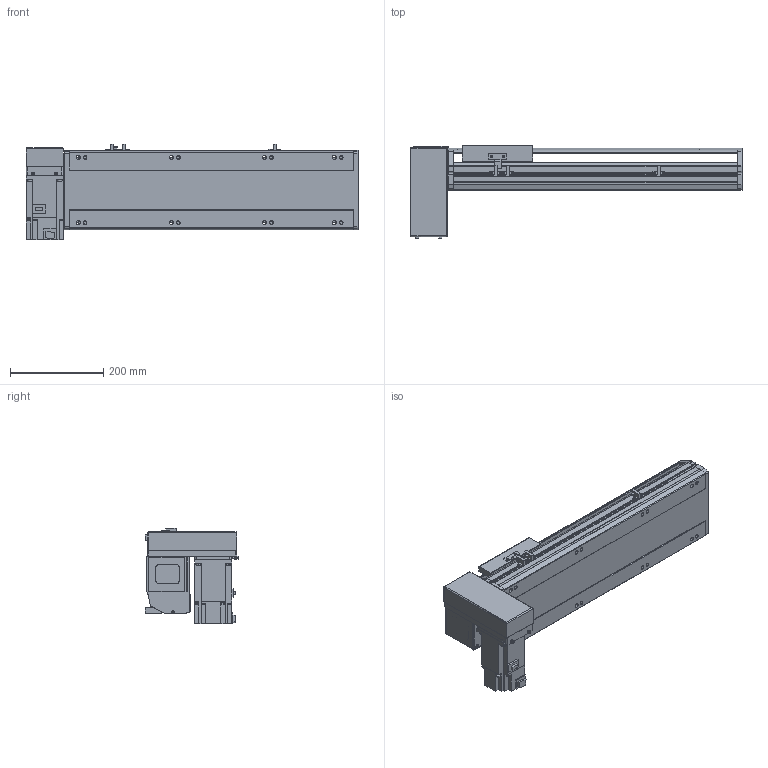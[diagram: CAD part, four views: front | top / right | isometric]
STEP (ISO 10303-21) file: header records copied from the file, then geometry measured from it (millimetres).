
FILE_DESCRIPTION(/* description */ ('STEP AP214'),/* implementation_level */ '2;1');
FILE_NAME(/* name */ 'PBS170-P40-S350-RD-T75-C1-N(0)',/* time_stamp */ '2022-06-08T07:34:15+02:00',/* author */ ('License CC BY-ND 4.0'),/* organization */ ('CADENAS'),/* preprocessor_version */ 'ST-DEVELOPER v18.102',/* originating_system */ 'PARTsolutions',/* authorisation */ ' ');
FILE_SCHEMA (('AUTOMOTIVE_DESIGN {1 0 10303 214 3 1 1}'));
Length unit declared in the file: millimetre
Products named in the file (7): PBS170-P40-S350-RD-T75-C1-N(0); PBS170_sensor; PBS170_plant; PBS170_sliser; T75-p1; PBS170T-RD_motors; PBS170-S350()_body
Assembly tree (8 placements, depth 2):
  PBS170-P40-S350-RD-T75-C1-N(0)
    PBS170_sensor  x3
    PBS170_plant
    PBS170_sliser
    T75-p1
    PBS170T-RD_motors
    PBS170-S350()_body
Bounding box: 713 x 201 x 205.3 mm (x, y, z)
Volume: 6359559.4 mm3; surface area: 881161.5 mm2
Topology: 8 solids, 8 shells, 1018 faces, 2715 edges, 1770 vertices
Faces by surface type: plane 663, cylinder 307, cone 38, sphere 8, torus 2
Full cylindrical faces by diameter (mm): 3.242 x4, 4 x2, 4.4 x4, 4.5 x6, 4.917 x4, 6 x9, 6.647 x16, 7 x2, 7.5 x4, 8 x8, 8.5 x8, 10 x4, 10.5 x8, 11 x2, 30 x2, 40 x1, 70 x1
Entity records: 29286 total; most frequent: CARTESIAN_POINT 5265, DIRECTION 5020, ORIENTED_EDGE 4788, EDGE_CURVE 2394, AXIS2_PLACEMENT_3D 1717, VERTEX_POINT 1634, LINE 1586, VECTOR 1586
